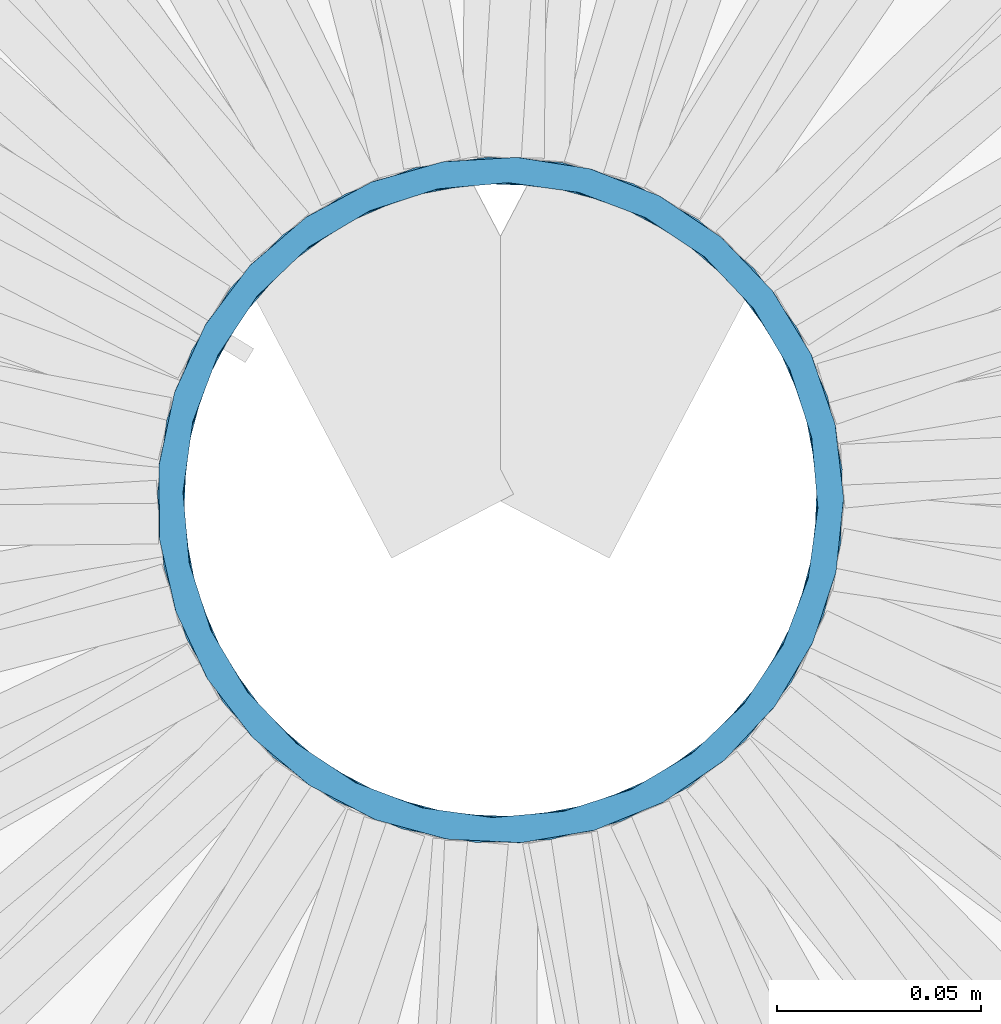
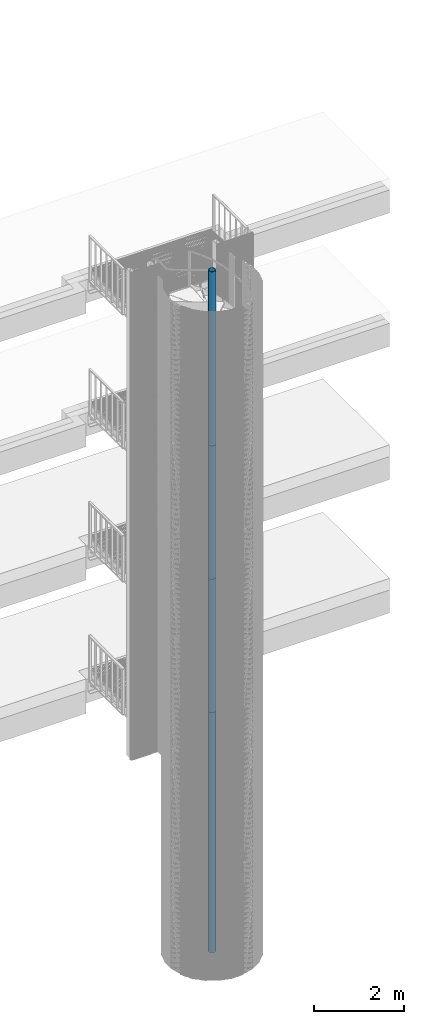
# One storey, part 10 of 1148: 4 columns, 4 elements without a shape of their own.
"""IFC2X3 building model written with IfcOpenShell, lengths in millimetres."""

from ifc_helpers import new_model, si_unit, frame, origin_with_axes, origin_2d_with_axis, place, context, subcontext, project, spatial, hollow_circle, extrude, material, type_object, element, aggregate, save


model = new_model("IFC2X3")

# Units and contexts
model_context = context("Model", 3, precision=1e-05, world=origin_with_axes())
body_context = subcontext(model_context, "Body", "Model", "MODEL_VIEW")
ifc_project = project(units=[si_unit("LENGTHUNIT", "METRE", prefix="MILLI"), si_unit("AREAUNIT", "SQUARE_METRE"), si_unit("VOLUMEUNIT", "CUBIC_METRE"), si_unit("MASSUNIT", "GRAM", prefix="KILO"), si_unit("TIMEUNIT", "SECOND"), si_unit("PLANEANGLEUNIT", "RADIAN"), si_unit("SOLIDANGLEUNIT", "STERADIAN"), si_unit("THERMODYNAMICTEMPERATUREUNIT", "DEGREE_CELSIUS"), si_unit("LUMINOUSINTENSITYUNIT", "LUMEN")], contexts=[model_context])

# Site, building, storey
site_placement = place(None, origin_with_axes())
site = spatial("IfcSite", under=ifc_project, at=site_placement, Name="Undefined", CompositionType="ELEMENT")
building_placement = place(site_placement, origin_with_axes())
building = spatial("IfcBuilding", under=site, at=building_placement, Name="Undefined", CompositionType="ELEMENT")
storey_placement = place(building_placement, origin_with_axes())
storey = spatial("IfcBuildingStorey", under=building, at=storey_placement, Name="Undefined", CompositionType="ELEMENT", Elevation=0.0)

# Assembly, column
assembly_1_placement = place(storey_placement, origin_with_axes())
assembly_1 = element("IfcElementAssembly", 1, at=assembly_1_placement, inside=storey, Name="POTEAU", AssemblyPlace="NOTDEFINED", PredefinedType="NOTDEFINED")
ifc_material = material(Name="STEEL/S235JR")
column_type = type_object("IfcColumnType", Name="TUBE-168.3*6.3", PredefinedType="NOTDEFINED")
column_1_placement = place(assembly_1_placement, frame((0.0, 0.0, 13690.0), z_axis=(0.0, 0.0, 1.0), x_axis=(0.766044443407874, -0.642787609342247, 0.0)))
column_1 = element("IfcColumn", 2, at=column_1_placement, type_object=column_type, material=ifc_material, Name="POTEAU", context=body_context, shape_type="SweptSolid", body=[
    extrude(hollow_circle(Radius=84.15000155, WallThickness=6.300000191, at=origin_2d_with_axis()), frame((0.0, 0.0, 4700.0), z_axis=(0.0, 0.0, -1.0), x_axis=(0.0, 1.0, 0.0)), (0.0, 0.0, 1.0), 4700.0),
])
aggregate(assembly_1, [column_1])

assembly_2_placement = place(storey_placement, origin_with_axes())
assembly_2 = element("IfcElementAssembly", 3, at=assembly_2_placement, inside=storey, Name="POTEAU", AssemblyPlace="NOTDEFINED", PredefinedType="NOTDEFINED")
column_2_placement = place(assembly_2_placement, frame((0.0, 0.0, 10090.0), z_axis=(0.0, 0.0, 1.0), x_axis=(0.422618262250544, -0.906307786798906, -1.9012441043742e-10)))
column_2 = element("IfcColumn", 4, at=column_2_placement, type_object=column_type, material=ifc_material, Name="POTEAU", context=body_context, shape_type="SweptSolid", body=[
    extrude(hollow_circle(Radius=84.15000155, WallThickness=6.300000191, at=origin_2d_with_axis()), frame((0.0, 0.0, 3600.0), z_axis=(0.0, 0.0, -1.0), x_axis=(0.0, 1.0, 0.0)), (0.0, 0.0, 1.0), 3600.0),
])
aggregate(assembly_2, [column_2])

assembly_3_placement = place(storey_placement, origin_with_axes())
assembly_3 = element("IfcElementAssembly", 5, at=assembly_3_placement, inside=storey, Name="POTEAU", AssemblyPlace="NOTDEFINED", PredefinedType="NOTDEFINED")
column_3_placement = place(assembly_3_placement, frame((0.0, 0.0, 6490.0), z_axis=(0.0, 0.0, 1.0), x_axis=(0.0, -1.0, 0.0)))
column_3 = element("IfcColumn", 6, at=column_3_placement, type_object=column_type, material=ifc_material, Name="POTEAU", context=body_context, shape_type="SweptSolid", body=[
    extrude(hollow_circle(Radius=84.15000155, WallThickness=6.300000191, at=origin_2d_with_axis()), frame((0.0, 0.0, 3600.0), z_axis=(0.0, 0.0, -1.0), x_axis=(0.0, 1.0, 0.0)), (0.0, 0.0, 1.0), 3600.0),
])
aggregate(assembly_3, [column_3])

assembly_4_placement = place(storey_placement, origin_with_axes())
assembly_4 = element("IfcElementAssembly", 7, at=assembly_4_placement, inside=storey, Name="POTEAU", AssemblyPlace="NOTDEFINED", PredefinedType="NOTDEFINED")
column_4_placement = place(assembly_4_placement, frame((0.0, 0.0, 0.0), z_axis=(0.0, 0.0, 1.0), x_axis=(0.499999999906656, -0.866025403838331, 0.0)))
column_4 = element("IfcColumn", 8, at=column_4_placement, type_object=column_type, material=ifc_material, Name="POTEAU", context=body_context, shape_type="SweptSolid", body=[
    extrude(hollow_circle(Radius=84.15000155, WallThickness=6.300000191, at=origin_2d_with_axis()), frame((0.0, 0.0, 6490.0), z_axis=(0.0, 0.0, -1.0), x_axis=(0.0, 1.0, 0.0)), (0.0, 0.0, 1.0), 6490.0),
])
aggregate(assembly_4, [column_4])

save(model, "model.ifc")
